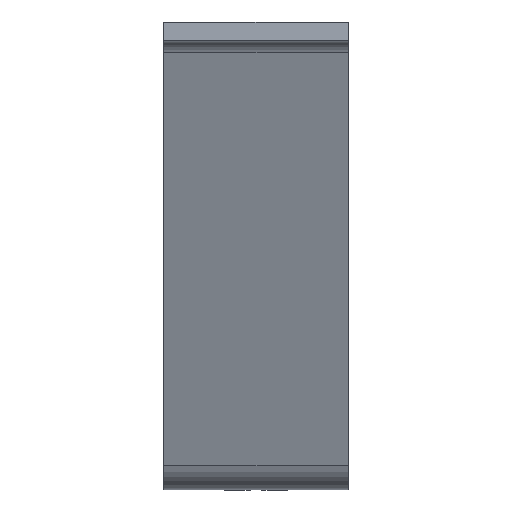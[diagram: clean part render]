
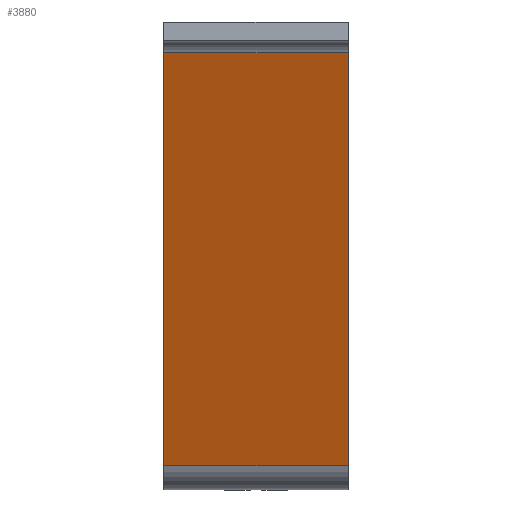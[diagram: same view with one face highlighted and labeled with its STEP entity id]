
A CAD part, front view. The second image highlights one B-rep face of the part: STEP entity #3880.
In plain terms, the highlighted planar face has unit normal (0, -0.94, -0.342).
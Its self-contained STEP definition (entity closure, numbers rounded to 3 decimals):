
#269=FACE_OUTER_BOUND('',#468,.T.);
#468=EDGE_LOOP('',(#3419,#3420,#3421,#3422));
#966=LINE('',#6203,#1470);
#970=LINE('',#6218,#1474);
#973=LINE('',#6224,#1477);
#974=LINE('',#6225,#1478);
#1470=VECTOR('',#5078,10.);
#1474=VECTOR('',#5098,10.);
#1477=VECTOR('',#5103,10.);
#1478=VECTOR('',#5104,10.);
#1836=VERTEX_POINT('',#6200);
#1837=VERTEX_POINT('',#6202);
#1840=VERTEX_POINT('',#6217);
#1842=VERTEX_POINT('',#6223);
#2377=EDGE_CURVE('',#1837,#1836,#966,.T.);
#2384=EDGE_CURVE('',#1840,#1837,#970,.T.);
#2387=EDGE_CURVE('',#1842,#1836,#973,.T.);
#2388=EDGE_CURVE('',#1842,#1840,#974,.T.);
#3419=ORIENTED_EDGE('',*,*,#2377,.T.);
#3420=ORIENTED_EDGE('',*,*,#2387,.F.);
#3421=ORIENTED_EDGE('',*,*,#2388,.T.);
#3422=ORIENTED_EDGE('',*,*,#2384,.T.);
#3686=PLANE('',#4125);
#3880=ADVANCED_FACE('',(#269),#3686,.F.);
#4125=AXIS2_PLACEMENT_3D('',#6222,#5101,#5102);
#5078=DIRECTION('',(1.,0.,0.));
#5098=DIRECTION('',(0.,0.342,-0.94));
#5101=DIRECTION('center_axis',(0.,0.94,
0.342));
#5102=DIRECTION('ref_axis',(0.,0.342,-0.94));
#5103=DIRECTION('',(0.,0.342,-0.94));
#5104=DIRECTION('',(-1.,0.,0.));
#6200=CARTESIAN_POINT('',(0.,63.106,-69.254));
#6202=CARTESIAN_POINT('',(-30.,63.106,-69.254));
#6203=CARTESIAN_POINT('',(-22.5,63.106,-69.254));
#6217=CARTESIAN_POINT('',(-30.,38.618,-1.974));
#6218=CARTESIAN_POINT('',(-30.,36.813,2.986));
#6222=CARTESIAN_POINT('Origin',(-15.,50.678,-35.108));
#6223=CARTESIAN_POINT('',(0.,38.618,-1.974));
#6224=CARTESIAN_POINT('',(0.,36.813,2.986));
#6225=CARTESIAN_POINT('',(-15.,38.618,-1.974));
